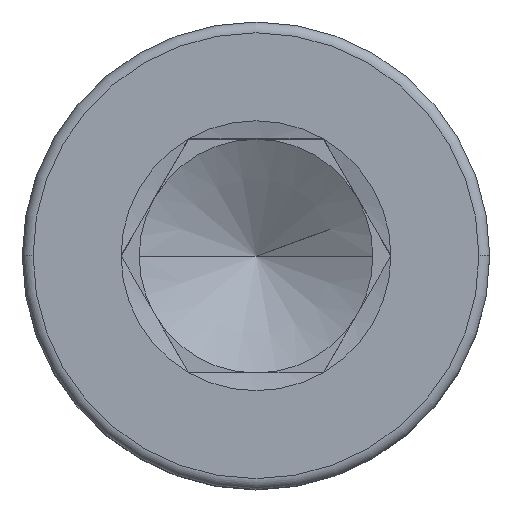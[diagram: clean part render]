
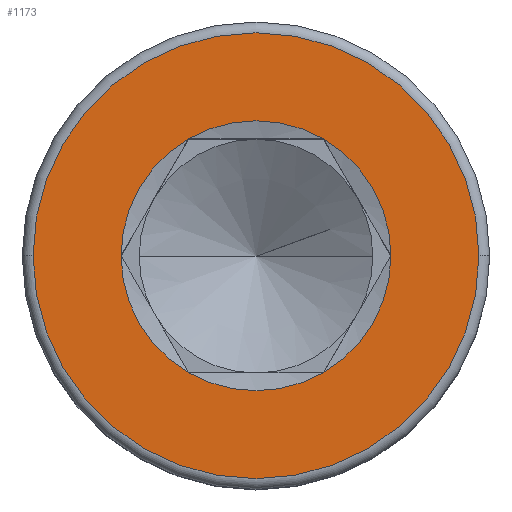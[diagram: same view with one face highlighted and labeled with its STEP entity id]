
A CAD part, top view. The second image highlights one B-rep face of the part: STEP entity #1173.
In plain terms, the highlighted planar face has unit normal (0, 0, 1).
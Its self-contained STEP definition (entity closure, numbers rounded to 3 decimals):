
#58 = AXIS2_PLACEMENT_3D ( 'NONE', #1730, #1154, #1060 ) ;
#105 = EDGE_CURVE ( 'NONE', #1607, #198, #575, .T. ) ;
#178 = CARTESIAN_POINT ( 'NONE',  ( -2.309, 4., 10. ) ) ;
#186 = ORIENTED_EDGE ( 'NONE', *, *, #311, .F. ) ;
#190 = CARTESIAN_POINT ( 'NONE',  ( 0., 0., 10. ) ) ;
#197 = CARTESIAN_POINT ( 'NONE',  ( -2.309, -4., 10. ) ) ;
#198 = VERTEX_POINT ( 'NONE', #506 ) ;
#202 = EDGE_CURVE ( 'NONE', #526, #1254, #805, .T. ) ;
#215 = VERTEX_POINT ( 'NONE', #197 ) ;
#252 = DIRECTION ( 'NONE',  ( 0., 0., 1. ) ) ;
#254 = DIRECTION ( 'NONE',  ( 1., 0., 0. ) ) ;
#278 = CARTESIAN_POINT ( 'NONE',  ( 0., 0., 10. ) ) ;
#298 = CARTESIAN_POINT ( 'NONE',  ( 2.309, 4., 10. ) ) ;
#311 = EDGE_CURVE ( 'NONE', #784, #215, #1792, .T. ) ;
#336 = VERTEX_POINT ( 'NONE', #1501 ) ;
#373 = CIRCLE ( 'NONE', #868, 4.619 ) ;
#384 = CARTESIAN_POINT ( 'NONE',  ( 0., 0., 10. ) ) ;
#388 = FACE_BOUND ( 'NONE', #1553, .T. ) ;
#417 = DIRECTION ( 'NONE',  ( 0., 0., 1. ) ) ;
#506 = CARTESIAN_POINT ( 'NONE',  ( -7.63, 0., 10. ) ) ;
#522 = EDGE_CURVE ( 'NONE', #336, #1445, #719, .T. ) ;
#526 = VERTEX_POINT ( 'NONE', #298 ) ;
#528 = DIRECTION ( 'NONE',  ( 1., 0., 0. ) ) ;
#540 = DIRECTION ( 'NONE',  ( 1., 0., 0. ) ) ;
#547 = CARTESIAN_POINT ( 'NONE',  ( 0., 0., 10. ) ) ;
#566 = ORIENTED_EDGE ( 'NONE', *, *, #1522, .T. ) ;
#569 = DIRECTION ( 'NONE',  ( 1., 0., 0. ) ) ;
#572 = DIRECTION ( 'NONE',  ( 0., 0., 1. ) ) ;
#575 = CIRCLE ( 'NONE', #1121, 7.63 ) ;
#597 = CARTESIAN_POINT ( 'NONE',  ( -4.619, 0., 10. ) ) ;
#681 = EDGE_CURVE ( 'NONE', #1254, #784, #373, .T. ) ;
#719 = CIRCLE ( 'NONE', #1124, 4.619 ) ;
#735 = DIRECTION ( 'NONE',  ( 1., 0., 0. ) ) ;
#748 = AXIS2_PLACEMENT_3D ( 'NONE', #547, #1359, #528 ) ;
#784 = VERTEX_POINT ( 'NONE', #597 ) ;
#786 = EDGE_CURVE ( 'NONE', #1445, #526, #1650, .T. ) ;
#805 = CIRCLE ( 'NONE', #58, 4.619 ) ;
#842 = DIRECTION ( 'NONE',  ( 0., 0., 1. ) ) ;
#868 = AXIS2_PLACEMENT_3D ( 'NONE', #278, #1664, #254 ) ;
#933 = PLANE ( 'NONE',  #1590 ) ;
#1060 = DIRECTION ( 'NONE',  ( 1., 0., 0. ) ) ;
#1067 = CARTESIAN_POINT ( 'NONE',  ( 7.63, 0., 10. ) ) ;
#1093 = CIRCLE ( 'NONE', #1563, 4.619 ) ;
#1105 = ORIENTED_EDGE ( 'NONE', *, *, #681, .F. ) ;
#1121 = AXIS2_PLACEMENT_3D ( 'NONE', #1433, #417, #540 ) ;
#1124 = AXIS2_PLACEMENT_3D ( 'NONE', #1387, #1542, #1681 ) ;
#1137 = ORIENTED_EDGE ( 'NONE', *, *, #202, .F. ) ;
#1146 = CARTESIAN_POINT ( 'NONE',  ( 0., 0., 10. ) ) ;
#1154 = DIRECTION ( 'NONE',  ( 0., 0., 1. ) ) ;
#1173 = ADVANCED_FACE ( 'NONE', ( #1628, #388 ), #933, .T. ) ;
#1239 = EDGE_CURVE ( 'NONE', #215, #336, #1093, .T. ) ;
#1254 = VERTEX_POINT ( 'NONE', #178 ) ;
#1351 = ORIENTED_EDGE ( 'NONE', *, *, #1239, .F. ) ;
#1358 = DIRECTION ( 'NONE',  ( 1., 0., 0. ) ) ;
#1359 = DIRECTION ( 'NONE',  ( 0., 0., 1. ) ) ;
#1362 = AXIS2_PLACEMENT_3D ( 'NONE', #384, #1494, #1724 ) ;
#1387 = CARTESIAN_POINT ( 'NONE',  ( 0., 0., 10. ) ) ;
#1397 = ORIENTED_EDGE ( 'NONE', *, *, #105, .T. ) ;
#1433 = CARTESIAN_POINT ( 'NONE',  ( 0., 0., 10. ) ) ;
#1445 = VERTEX_POINT ( 'NONE', #1447 ) ;
#1447 = CARTESIAN_POINT ( 'NONE',  ( 4.619, 0., 10. ) ) ;
#1457 = CIRCLE ( 'NONE', #1362, 7.63 ) ;
#1494 = DIRECTION ( 'NONE',  ( 0., 0., 1. ) ) ;
#1501 = CARTESIAN_POINT ( 'NONE',  ( 2.309, -4., 10. ) ) ;
#1505 = CARTESIAN_POINT ( 'NONE',  ( 0., 0., 10. ) ) ;
#1522 = EDGE_CURVE ( 'NONE', #198, #1607, #1457, .T. ) ;
#1542 = DIRECTION ( 'NONE',  ( 0., 0., 1. ) ) ;
#1553 = EDGE_LOOP ( 'NONE', ( #1605, #1746, #1351, #186, #1105, #1137 ) ) ;
#1563 = AXIS2_PLACEMENT_3D ( 'NONE', #1146, #842, #569 ) ;
#1590 = AXIS2_PLACEMENT_3D ( 'NONE', #1505, #252, #1358 ) ;
#1605 = ORIENTED_EDGE ( 'NONE', *, *, #786, .F. ) ;
#1607 = VERTEX_POINT ( 'NONE', #1067 ) ;
#1626 = AXIS2_PLACEMENT_3D ( 'NONE', #190, #572, #735 ) ;
#1628 = FACE_OUTER_BOUND ( 'NONE', #1718, .T. ) ;
#1650 = CIRCLE ( 'NONE', #1626, 4.619 ) ;
#1664 = DIRECTION ( 'NONE',  ( 0., 0., 1. ) ) ;
#1681 = DIRECTION ( 'NONE',  ( 1., 0., 0. ) ) ;
#1718 = EDGE_LOOP ( 'NONE', ( #1397, #566 ) ) ;
#1724 = DIRECTION ( 'NONE',  ( 1., 0., 0. ) ) ;
#1730 = CARTESIAN_POINT ( 'NONE',  ( 0., 0., 10. ) ) ;
#1746 = ORIENTED_EDGE ( 'NONE', *, *, #522, .F. ) ;
#1792 = CIRCLE ( 'NONE', #748, 4.619 ) ;
